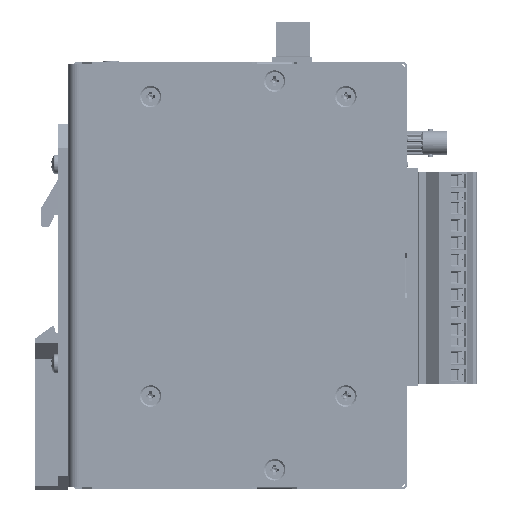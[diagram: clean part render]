
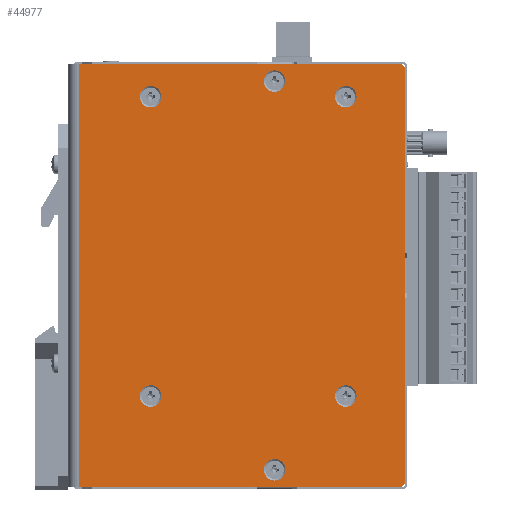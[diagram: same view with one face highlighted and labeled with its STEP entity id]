
A CAD part, left-side view. The second image highlights one B-rep face of the part: STEP entity #44977.
In plain terms, the highlighted planar face has unit normal (-1, 0, 0).
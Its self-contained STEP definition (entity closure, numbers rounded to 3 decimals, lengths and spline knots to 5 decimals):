
#2369=PLANE('',#54061);
#6343=LINE('',#79052,#10449);
#6347=LINE('',#79061,#10453);
#6351=LINE('',#79073,#10457);
#6352=LINE('',#79090,#10458);
#10449=VECTOR('',#65730,1.);
#10453=VECTOR('',#65736,1.);
#10457=VECTOR('',#65748,1.);
#10458=VECTOR('',#65769,1.);
#21678=ORIENTED_EDGE('',*,*,#28000,.T.);
#21679=ORIENTED_EDGE('',*,*,#28001,.T.);
#21680=ORIENTED_EDGE('',*,*,#28002,.T.);
#21681=ORIENTED_EDGE('',*,*,#28003,.T.);
#21682=ORIENTED_EDGE('',*,*,#28004,.T.);
#21683=ORIENTED_EDGE('',*,*,#28005,.T.);
#21684=ORIENTED_EDGE('',*,*,#27997,.F.);
#21685=ORIENTED_EDGE('',*,*,#27999,.F.);
#21686=ORIENTED_EDGE('',*,*,#27987,.F.);
#21687=ORIENTED_EDGE('',*,*,#28006,.F.);
#21688=ORIENTED_EDGE('',*,*,#27991,.F.);
#21689=ORIENTED_EDGE('',*,*,#27994,.F.);
#27987=EDGE_CURVE('',#32284,#32282,#6343,.T.);
#27991=EDGE_CURVE('',#32288,#32286,#6347,.F.);
#27994=EDGE_CURVE('',#32290,#32288,#33833,.F.);
#27997=EDGE_CURVE('',#32292,#32290,#6351,.F.);
#27999=EDGE_CURVE('',#32282,#32292,#33835,.F.);
#28000=EDGE_CURVE('',#32293,#32293,#33836,.T.);
#28001=EDGE_CURVE('',#32294,#32294,#33837,.T.);
#28002=EDGE_CURVE('',#32295,#32295,#33838,.T.);
#28003=EDGE_CURVE('',#32296,#32296,#33839,.T.);
#28004=EDGE_CURVE('',#32297,#32297,#33840,.T.);
#28005=EDGE_CURVE('',#32298,#32298,#33841,.T.);
#28006=EDGE_CURVE('',#32286,#32284,#6352,.F.);
#32282=VERTEX_POINT('',#79047);
#32284=VERTEX_POINT('',#79051);
#32286=VERTEX_POINT('',#79056);
#32288=VERTEX_POINT('',#79060);
#32290=VERTEX_POINT('',#79066);
#32292=VERTEX_POINT('',#79072);
#32293=VERTEX_POINT('',#79079);
#32294=VERTEX_POINT('',#79081);
#32295=VERTEX_POINT('',#79083);
#32296=VERTEX_POINT('',#79085);
#32297=VERTEX_POINT('',#79087);
#32298=VERTEX_POINT('',#79089);
#33833=CIRCLE('',#54056,0.00152);
#33835=CIRCLE('',#54060,0.00152);
#33836=CIRCLE('',#54062,0.00315);
#33837=CIRCLE('',#54063,0.00315);
#33838=CIRCLE('',#54064,0.00315);
#33839=CIRCLE('',#54065,0.00315);
#33840=CIRCLE('',#54066,0.00315);
#33841=CIRCLE('',#54067,0.00315);
#37423=EDGE_LOOP('',(#21678));
#37424=EDGE_LOOP('',(#21679));
#37425=EDGE_LOOP('',(#21680));
#37426=EDGE_LOOP('',(#21681));
#37427=EDGE_LOOP('',(#21682));
#37428=EDGE_LOOP('',(#21683));
#37429=EDGE_LOOP('',(#21684,#21685,#21686,#21687,#21688,#21689));
#41081=FACE_BOUND('',#37423,.T.);
#41082=FACE_BOUND('',#37424,.T.);
#41083=FACE_BOUND('',#37425,.T.);
#41084=FACE_BOUND('',#37426,.T.);
#41085=FACE_BOUND('',#37427,.T.);
#41086=FACE_BOUND('',#37428,.T.);
#41087=FACE_BOUND('',#37429,.T.);
#44977=ADVANCED_FACE('',(#41081,#41082,#41083,#41084,#41085,#41086,#41087),
#2369,.T.);
#54056=AXIS2_PLACEMENT_3D('',#79067,#65742,#65743);
#54060=AXIS2_PLACEMENT_3D('',#79076,#65753,#65754);
#54061=AXIS2_PLACEMENT_3D('',#79077,#65755,#65756);
#54062=AXIS2_PLACEMENT_3D('',#79078,#65757,#65758);
#54063=AXIS2_PLACEMENT_3D('',#79080,#65759,#65760);
#54064=AXIS2_PLACEMENT_3D('',#79082,#65761,#65762);
#54065=AXIS2_PLACEMENT_3D('',#79084,#65763,#65764);
#54066=AXIS2_PLACEMENT_3D('',#79086,#65765,#65766);
#54067=AXIS2_PLACEMENT_3D('',#79088,#65767,#65768);
#65730=DIRECTION('',(0.,-1.,0.));
#65736=DIRECTION('',(0.,-1.,0.));
#65742=DIRECTION('',(-1.,0.,0.));
#65743=DIRECTION('',(0.,-1.,0.));
#65748=DIRECTION('',(0.,0.,1.));
#65753=DIRECTION('',(-1.,0.,0.));
#65754=DIRECTION('',(0.,-1.,0.));
#65755=DIRECTION('',(-1.,0.,0.));
#65756=DIRECTION('',(0.,-1.,0.));
#65757=DIRECTION('',(1.,0.,0.));
#65758=DIRECTION('',(0.,0.,-1.));
#65759=DIRECTION('',(1.,0.,0.));
#65760=DIRECTION('',(0.,0.,-1.));
#65761=DIRECTION('',(1.,0.,0.));
#65762=DIRECTION('',(0.,0.,-1.));
#65763=DIRECTION('',(1.,0.,0.));
#65764=DIRECTION('',(0.,0.,-1.));
#65765=DIRECTION('',(1.,0.,0.));
#65766=DIRECTION('',(0.,0.,-1.));
#65767=DIRECTION('',(1.,0.,0.));
#65768=DIRECTION('',(0.,0.,-1.));
#65769=DIRECTION('',(0.,0.,-1.));
#79047=CARTESIAN_POINT('',(-0.02311,-0.0955,0.12395));
#79051=CARTESIAN_POINT('',(-0.02311,-0.00152,0.12395));
#79052=CARTESIAN_POINT('',(-0.02311,-0.04851,0.12395));
#79056=CARTESIAN_POINT('',(-0.02311,-0.00152,0.));
#79060=CARTESIAN_POINT('',(-0.02311,-0.0955,0.));
#79061=CARTESIAN_POINT('',(-0.02311,-0.04851,0.));
#79066=CARTESIAN_POINT('',(-0.02311,-0.09703,0.00152));
#79067=CARTESIAN_POINT('',(-0.02311,-0.0955,0.00152));
#79072=CARTESIAN_POINT('',(-0.02311,-0.09703,0.12243));
#79073=CARTESIAN_POINT('',(-0.02311,-0.09703,0.06198));
#79076=CARTESIAN_POINT('',(-0.02311,-0.0955,0.12243));
#79077=CARTESIAN_POINT('',(-0.02311,-0.04851,0.06198));
#79078=CARTESIAN_POINT('',(-0.02311,-0.05893,0.00508));
#79079=CARTESIAN_POINT('',(-0.02311,-0.05893,0.00193));
#79080=CARTESIAN_POINT('',(-0.02311,-0.07976,0.1143));
#79081=CARTESIAN_POINT('',(-0.02311,-0.07976,0.11115));
#79082=CARTESIAN_POINT('',(-0.02311,-0.05893,0.11887));
#79083=CARTESIAN_POINT('',(-0.02311,-0.05893,0.11572));
#79084=CARTESIAN_POINT('',(-0.02311,-0.02261,0.1143));
#79085=CARTESIAN_POINT('',(-0.02311,-0.02261,0.11115));
#79086=CARTESIAN_POINT('',(-0.02311,-0.02261,0.02667));
#79087=CARTESIAN_POINT('',(-0.02311,-0.02261,0.02352));
#79088=CARTESIAN_POINT('',(-0.02311,-0.07976,0.02667));
#79089=CARTESIAN_POINT('',(-0.02311,-0.07976,0.02352));
#79090=CARTESIAN_POINT('',(-0.02311,-0.00152,0.06198));
